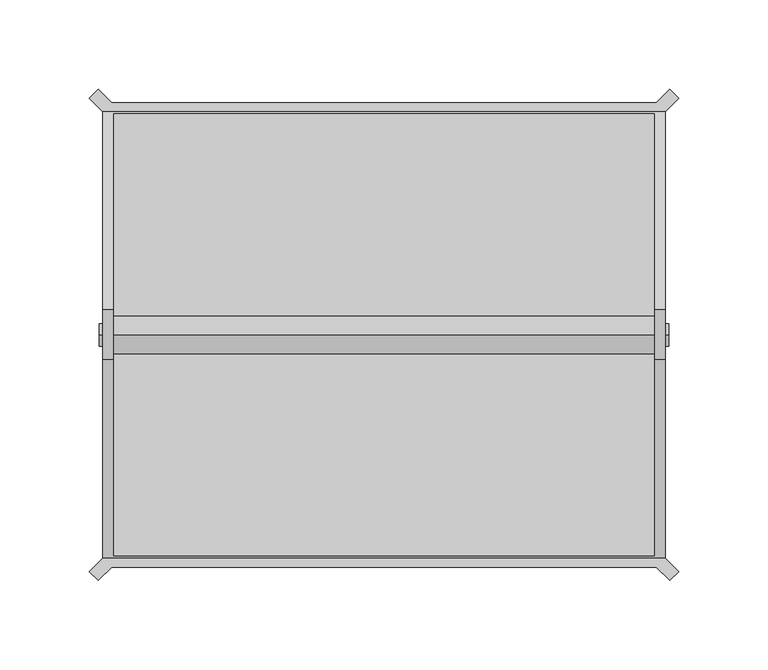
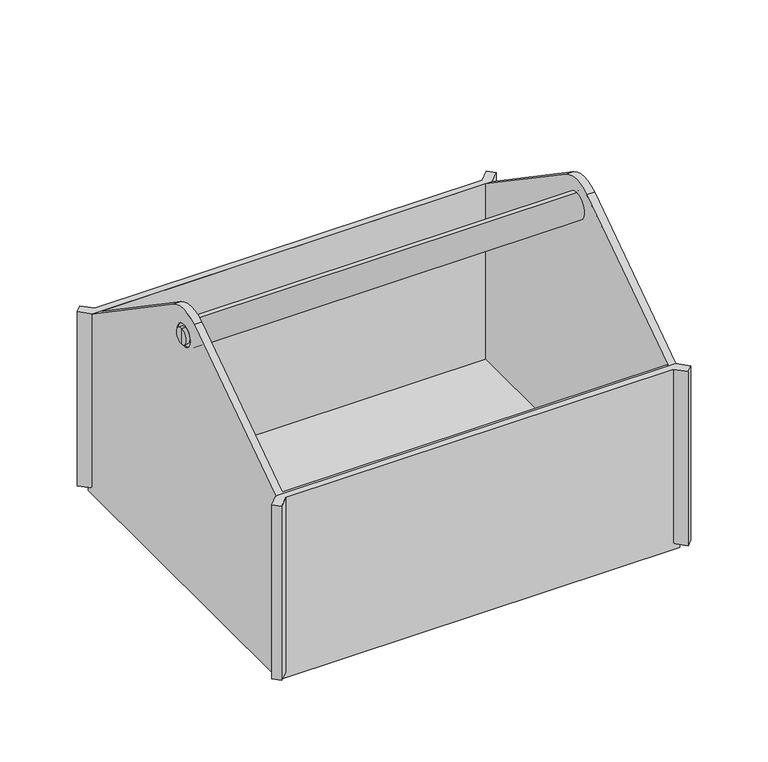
"""IFC4 building model written with IfcOpenShell, lengths in millimetres: furniture geometry, Toolbox : Toolbox."""

from ifc_helpers import new_model, si_unit, frame, origin, place, context, project, spatial, polyline, circle_curve, source, transform, mapped, element, save
from ifc_brep_helpers import plane_surface, cylinder_surface, revolved_surface, advanced_brep


def furniture_e679e7c0(model_context):
    return source(origin(), model_context, "Body", "AdvancedBrep", [
        advanced_brep(
        [(-159.4956996, 57.5, 208.125), (-159.4956996, 57.5, 214.4386123), (-159.4956996, 57.5, 201.8113877), (159.4956996, 57.5, 201.8113877), (159.4956996, 57.5, 214.4386123), (159.4956996, 57.5, 208.125), (152.5, 57.5, 201.8113877), (152.5, 57.5, 214.4386123), (152.5, 57.5, 197.6842704), (152.5, 57.5, 218.5657296), (-152.5, 57.5, 197.6842704), (-152.5, 57.5, 218.5657296), (-152.5, 57.5, 201.8113877), (-152.5, 57.5, 214.4386123)],
        [
            (0, 1),
            (1, 2, circle_curve(frame((-159.4956996, 57.5, 208.125), z_axis=(-1.0, 0.0, 0.0), x_axis=(0.0, 0.0, 1.0)), 6.3136123)),
            (2, 0),
            (2, 1, circle_curve(frame((-159.4956996, 57.5, 208.125), z_axis=(-1.0, 0.0, 0.0), x_axis=(0.0, 0.0, 1.0)), 6.3136123)),
            (3, 4, circle_curve(frame((159.4956996, 57.5, 208.125), z_axis=(1.0, 0.0, 0.0), x_axis=(0.0, 0.0, 1.0)), 6.3136123)),
            (4, 5),
            (5, 3),
            (4, 3, circle_curve(frame((159.4956996, 57.5, 208.125), z_axis=(1.0, 0.0, 0.0), x_axis=(0.0, 0.0, 1.0)), 6.3136123)),
            (6, 7, circle_curve(frame((152.5, 57.5, 208.125), z_axis=(1.0, 0.0, 0.0), x_axis=(0.0, 0.0, 1.0)), 6.3136123)),
            (7, 4),
            (3, 6),
            (7, 6, circle_curve(frame((152.5, 57.5, 208.125), z_axis=(1.0, 0.0, 0.0), x_axis=(0.0, 0.0, 1.0)), 6.3136123)),
            (8, 9, circle_curve(frame((152.5, 57.5, 208.125), z_axis=(1.0, 0.0, 0.0), x_axis=(0.0, 0.0, 1.0)), 10.4407296)),
            (9, 7),
            (6, 8),
            (9, 8, circle_curve(frame((152.5, 57.5, 208.125), z_axis=(1.0, 0.0, 0.0), x_axis=(0.0, 0.0, 1.0)), 10.4407296)),
            (10, 11, circle_curve(frame((-152.5, 57.5, 208.125), z_axis=(1.0, 0.0, 0.0), x_axis=(0.0, 0.0, 1.0)), 10.4407296)),
            (11, 9),
            (8, 10),
            (11, 10, circle_curve(frame((-152.5, 57.5, 208.125), z_axis=(1.0, 0.0, 0.0), x_axis=(0.0, 0.0, 1.0)), 10.4407296)),
            (12, 13, circle_curve(frame((-152.5, 57.5, 208.125), z_axis=(1.0, 0.0, 0.0), x_axis=(0.0, 0.0, 1.0)), 6.3136123)),
            (13, 11),
            (10, 12),
            (13, 12, circle_curve(frame((-152.5, 57.5, 208.125), z_axis=(1.0, 0.0, 0.0), x_axis=(0.0, 0.0, 1.0)), 6.3136123)),
            (1, 13),
            (12, 2),
        ],
        [
            plane_surface(frame((-159.4956996, 57.5, 208.125), z_axis=(-1.0, 0.0, 0.0), x_axis=(0.0, 0.0, 1.0))),
            plane_surface(frame((159.4956996, 57.5, 208.125), z_axis=(1.0, 0.0, 0.0), x_axis=(0.0, 0.0, 1.0))),
            cylinder_surface(frame((-152.5, 57.5, 208.125), z_axis=(-1.0, 0.0, 0.0), x_axis=(0.0, 0.0, 1.0)), 6.3136123),
            plane_surface(frame((152.5, 57.5, 208.125), z_axis=(1.0, 0.0, 0.0), x_axis=(0.0, 0.0, 1.0))),
            cylinder_surface(frame((-152.5, 57.5, 208.125), z_axis=(-1.0, 0.0, 0.0), x_axis=(0.0, 0.0, 1.0)), 10.4407296),
            plane_surface(frame((-152.5, 57.5, 208.125), z_axis=(-1.0, 0.0, 0.0), x_axis=(0.0, 0.0, 1.0))),
        ],
        [
            (0, [[1, 2, 3]]),
            (0, [[-3, 4, -1]]),
            (1, [[5, 6, 7]]),
            (1, [[8, -7, -6]]),
            (2, [[9, 10, -5, 11]]),
            (2, [[12, -11, -8, -10]]),
            (3, [[13, 14, -9, 15]]),
            (3, [[16, -15, -12, -14]]),
            (4, [[17, 18, -13, 19]]),
            (4, [[20, -19, -16, -18]]),
            (5, [[21, 22, -17, 23]]),
            (5, [[24, -23, -20, -22]]),
            (2, [[-2, 25, -21, 26]]),
            (2, [[-4, -26, -24, -25]]),
        ],
    ),
        advanced_brep(
        [(-157.5, 182.5, 5.0), (-165.0, 190.0, 5.0), (-160.0, 195.0, 5.0), (-152.5, 187.5, 5.0), (-157.5, 187.5, 5.0), (152.5, 187.5, 5.0), (160.0, 195.0, 5.0), (165.0, 190.0, 5.0), (157.5, 182.5, 5.0), (157.5, 187.5, 5.0), (157.5, -67.5, 5.0), (165.0, -75.0, 5.0), (160.0, -80.0, 5.0), (152.5, -72.5, 5.0), (157.5, -72.5, 5.0), (-152.5, -72.5, 5.0), (-160.0, -80.0, 5.0), (-165.0, -75.0, 5.0), (-157.5, -67.5, 5.0), (-157.5, -72.5, 5.0), (151.5, 181.5, 150.68), (151.5, 181.5, 5.0), (151.5, -66.5, 5.0), (151.5, -66.5, 150.68), (151.5, 43.4422495, 225.4407296), (151.5, 71.5577505, 225.4407296), (-151.5, -66.5, 5.0), (-151.5, -66.5, 150.68), (-151.5, 181.5, 5.0), (-151.5, 181.5, 150.68), (-151.5, 71.5577505, 225.4407296), (-151.5, 43.4422495, 225.4407296), (-157.5, 182.5, 150.0), (-157.5, 187.5, 0.0), (-157.5, -72.5, 0.0), (-157.5, -67.5, 150.0), (-157.5, 43.4422495, 225.4407296), (-157.5, 71.5577505, 225.4407296), (-157.5, 57.5, 199.3113877), (-157.5, 57.5, 216.9386123), (-165.0, -75.0, 150.0), (-160.0, -80.0, 150.0), (-152.5, -72.5, 150.0), (157.5, -72.5, 0.0), (152.5, -72.5, 150.0), (160.0, -80.0, 150.0), (165.0, -75.0, 150.0), (157.5, -67.5, 150.0), (157.5, 187.5, 0.0), (157.5, 182.5, 150.0), (157.5, 71.5577505, 225.4407296), (157.5, 43.4422495, 225.4407296), (157.5, 57.5, 217.0948623), (157.5, 57.5, 199.1551377), (165.0, 190.0, 150.0), (160.0, 195.0, 150.0), (152.5, 187.5, 150.0), (-152.5, 187.5, 150.0), (-160.0, 195.0, 150.0), (-165.0, 190.0, 150.0), (156.5625, 57.5, 217.0948623), (156.5625, 57.5, 199.1551377), (156.5625, 57.5, 208.125), (-156.5625, 57.5, 199.3113877), (-156.5625, 57.5, 208.125), (-156.5625, 57.5, 216.9386123)],
        [
            (0, 1),
            (1, 2),
            (2, 3),
            (3, 4),
            (4, 0),
            (5, 6),
            (6, 7),
            (7, 8),
            (8, 9),
            (9, 5),
            (10, 11),
            (11, 12),
            (12, 13),
            (13, 14),
            (14, 10),
            (15, 16),
            (16, 17),
            (17, 18),
            (18, 19),
            (19, 15),
            (20, 21),
            (21, 22),
            (22, 23),
            (23, 24),
            (24, 25, circle_curve(frame((151.5, 57.5, 204.7675671), z_axis=(-1.0, 0.0, 0.0), x_axis=(0.0, 1.0, 0.0)), 25.0)),
            (25, 20),
            (22, 26),
            (26, 27),
            (27, 23),
            (26, 28),
            (28, 29),
            (29, 30),
            (30, 31, circle_curve(frame((-151.5, 57.5, 204.7675671), z_axis=(1.0, 0.0, 0.0), x_axis=(0.0, 1.0, 0.0)), 25.0)),
            (31, 27),
            (20, 29),
            (28, 21),
            (32, 0),
            (4, 33),
            (33, 34),
            (34, 19),
            (18, 35),
            (35, 36),
            (36, 37, circle_curve(frame((-157.5, 57.5, 204.7675671), z_axis=(-1.0, 0.0, 0.0), x_axis=(0.0, 1.0, 0.0)), 25.0)),
            (37, 32),
            (38, 39, circle_curve(frame((-157.5, 57.5, 208.125), z_axis=(1.0, 0.0, 0.0), x_axis=(0.0, 0.0, 1.0)), 8.8136123)),
            (39, 38, circle_curve(frame((-157.5, 57.5, 208.125), z_axis=(1.0, 0.0, 0.0), x_axis=(0.0, 0.0, 1.0)), 8.8136123)),
            (17, 40),
            (40, 35),
            (16, 41),
            (41, 40),
            (15, 42),
            (42, 41),
            (34, 43),
            (43, 14),
            (13, 44),
            (44, 42),
            (12, 45),
            (45, 44),
            (11, 46),
            (46, 45),
            (10, 47),
            (47, 46),
            (43, 48),
            (48, 9),
            (8, 49),
            (49, 50),
            (50, 51, circle_curve(frame((157.5, 57.5, 204.7675671), z_axis=(1.0, 0.0, 0.0), x_axis=(0.0, 1.0, 0.0)), 25.0)),
            (51, 47),
            (52, 53, circle_curve(frame((157.5, 57.5, 208.125), z_axis=(-1.0, 0.0, 0.0), x_axis=(0.0, 0.0, 1.0)), 8.9698623)),
            (53, 52, circle_curve(frame((157.5, 57.5, 208.125), z_axis=(-1.0, 0.0, 0.0), x_axis=(0.0, 0.0, 1.0)), 8.9698623)),
            (7, 54),
            (54, 49),
            (6, 55),
            (55, 54),
            (5, 56),
            (56, 55),
            (48, 33),
            (3, 57),
            (57, 56),
            (2, 58),
            (58, 57),
            (1, 59),
            (59, 58),
            (32, 59),
            (47, 35),
            (51, 24),
            (31, 36),
            (50, 25),
            (30, 37),
            (49, 32),
            (60, 61, circle_curve(frame((156.5625, 57.5, 208.125), z_axis=(-1.0, 0.0, 0.0), x_axis=(0.0, 0.0, 1.0)), 8.9698623)),
            (61, 53),
            (52, 60),
            (61, 60, circle_curve(frame((156.5625, 57.5, 208.125), z_axis=(-1.0, 0.0, 0.0), x_axis=(0.0, 0.0, 1.0)), 8.9698623)),
            (60, 62),
            (62, 61),
            (63, 64),
            (64, 65),
            (65, 63, circle_curve(frame((-156.5625, 57.5, 208.125), z_axis=(-1.0, 0.0, 0.0), x_axis=(0.0, 0.0, 1.0)), 8.8136123)),
            (63, 65, circle_curve(frame((-156.5625, 57.5, 208.125), z_axis=(-1.0, 0.0, 0.0), x_axis=(0.0, 0.0, 1.0)), 8.8136123)),
            (65, 39),
            (38, 63),
        ],
        [
            plane_surface(frame((151.5, 182.5, 5.0), z_axis=(0.0, 0.0, -1.0), x_axis=(0.0, 1.0, 0.0))),
            plane_surface(frame((151.5, 181.5, 230.0), z_axis=(-1.0, 0.0, 0.0), x_axis=(0.0, 0.0, -1.0))),
            plane_surface(frame((151.5, -66.5, 230.0), z_axis=(0.0, 1.0, 0.0), x_axis=(0.0, 0.0, -1.0))),
            plane_surface(frame((-151.5, -66.5, 230.0), z_axis=(1.0, 0.0, 0.0), x_axis=(0.0, 0.0, -1.0))),
            plane_surface(frame((-151.5, 181.5, 230.0), z_axis=(0.0, -1.0, 0.0), x_axis=(0.0, 0.0, -1.0))),
            plane_surface(frame((-157.5, 182.5, 230.0), z_axis=(-1.0, 0.0, 0.0), x_axis=(0.0, 0.0, -1.0))),
            plane_surface(frame((-157.5, -67.5, 230.0), z_axis=(-0.7071067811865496, 0.7071067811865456, 0.0), x_axis=(0.0, 0.0, -1.0))),
            plane_surface(frame((-165.0, -75.0, 230.0), z_axis=(-0.707106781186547, -0.7071067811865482, 0.0), x_axis=(0.0, 0.0, -1.0))),
            plane_surface(frame((-160.0, -80.0, 230.0), z_axis=(0.7071067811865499, -0.7071067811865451, 0.0), x_axis=(0.0, 0.0, -1.0))),
            plane_surface(frame((-152.5, -72.5, 230.0), z_axis=(0.0, -1.0, 0.0), x_axis=(0.0, 0.0, -1.0))),
            plane_surface(frame((152.5, -72.5, 230.0), z_axis=(-0.7071067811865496, -0.7071067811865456, 0.0), x_axis=(0.0, 0.0, -1.0))),
            plane_surface(frame((160.0, -80.0, 230.0), z_axis=(0.707106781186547, -0.7071067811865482, 0.0), x_axis=(0.0, 0.0, -1.0))),
            plane_surface(frame((165.0, -75.0, 230.0), z_axis=(0.7071067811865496, 0.7071067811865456, 0.0), x_axis=(0.0, 0.0, -1.0))),
            plane_surface(frame((157.5, -67.5, 230.0), z_axis=(1.0, 0.0, 0.0), x_axis=(0.0, 0.0, -1.0))),
            plane_surface(frame((157.5, 182.5, 230.0), z_axis=(0.7071067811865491, -0.707106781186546, 0.0), x_axis=(0.0, 0.0, -1.0))),
            plane_surface(frame((165.0, 190.0, 230.0), z_axis=(0.7071067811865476, 0.7071067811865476, 0.0), x_axis=(0.0, 0.0, -1.0))),
            plane_surface(frame((160.0, 195.0, 230.0), z_axis=(-0.7071067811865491, 0.7071067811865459, 0.0), x_axis=(0.0, 0.0, -1.0))),
            plane_surface(frame((152.5, 187.5, 230.0), z_axis=(0.0, 1.0, 0.0), x_axis=(0.0, 0.0, -1.0))),
            plane_surface(frame((-152.5, 187.5, 230.0), z_axis=(0.7071067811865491, 0.7071067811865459, 0.0), x_axis=(0.0, 0.0, -1.0))),
            plane_surface(frame((-160.0, 195.0, 230.0), z_axis=(-0.7071067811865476, 0.7071067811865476, 0.0), x_axis=(0.0, 0.0, -1.0))),
            plane_surface(frame((-165.0, 190.0, 230.0), z_axis=(-0.7071067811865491, -0.707106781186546, 0.0), x_axis=(0.0, 0.0, -1.0))),
            plane_surface(frame((165.0, -80.0, 150.0), z_axis=(0.0, 0.0, 1.0), x_axis=(-1.0, 0.0, 0.0))),
            plane_surface(frame((165.0, -67.5, 150.0), z_axis=(0.0, -0.5623100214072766, 0.8269265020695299), x_axis=(-1.0, 0.0, 0.0))),
            cylinder_surface(frame((-165.0, 57.5, 204.7675671), z_axis=(-1.0, 0.0, 0.0), x_axis=(0.0, 1.0, 0.0)), 25.0),
            plane_surface(frame((165.0, 71.5577505, 225.4407296), z_axis=(0.0, 0.5623100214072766, 0.8269265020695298), x_axis=(-1.0, 0.0, 0.0))),
            plane_surface(frame((165.0, 182.5, 150.0), z_axis=(0.0, 0.0, 1.0), x_axis=(-1.0, 0.0, 0.0))),
            revolved_surface(polyline([(156.5625, 57.5, 217.0948623), (157.5, 57.5, 217.0948623)]), (-152.5, 57.5, 208.125), (-1.0, 0.0, 0.0)),
            plane_surface(frame((156.5625, 57.5, 208.125), z_axis=(1.0, 0.0, 0.0), x_axis=(0.0, 0.0, 1.0))),
            plane_surface(frame((-156.5625, 57.5, 208.125), z_axis=(-1.0, 0.0, 0.0), x_axis=(0.0, 0.0, 1.0))),
            revolved_surface(polyline([(-157.5, 57.5, 216.9386123), (-156.5625, 57.5, 216.9386123)]), (-152.5, 57.5, 208.125), (-1.0, 0.0, 0.0)),
            plane_surface(frame((-152.5, 187.5, 5.0), z_axis=(0.0, 0.0, 1.0), x_axis=(-1.0, 0.0, 0.0))),
            plane_surface(frame((-152.5, 187.5, 0.0), z_axis=(0.0, 0.0, -1.0), x_axis=(1.0, 0.0, 0.0))),
        ],
        [
            (0, [[1, 2, 3, 4, 5]]),
            (0, [[6, 7, 8, 9, 10]]),
            (0, [[11, 12, 13, 14, 15]]),
            (0, [[16, 17, 18, 19, 20]]),
            (1, [[21, 22, 23, 24, 25, 26]]),
            (2, [[-23, 27, 28, 29]]),
            (3, [[-28, 30, 31, 32, 33, 34]]),
            (4, [[-21, 35, -31, 36]]),
            (5, [[37, -5, 38, 39, 40, -19, 41, 42, 43, 44], [45, 46]]),
            (6, [[-18, 47, 48, -41]]),
            (7, [[-17, 49, 50, -47]]),
            (8, [[-16, 51, 52, -49]]),
            (9, [[-51, -20, -40, 53, 54, -14, 55, 56]]),
            (10, [[-13, 57, 58, -55]]),
            (11, [[-12, 59, 60, -57]]),
            (12, [[-11, 61, 62, -59]]),
            (13, [[-61, -15, -54, 63, 64, -9, 65, 66, 67, 68], [69, 70]]),
            (14, [[-8, 71, 72, -65]]),
            (15, [[-7, 73, 74, -71]]),
            (16, [[-6, 75, 76, -73]]),
            (17, [[-75, -10, -64, 77, -38, -4, 78, 79]]),
            (18, [[-3, 80, 81, -78]]),
            (19, [[-2, 82, 83, -80]]),
            (20, [[-1, -37, 84, -82]]),
            (21, [[85, -48, -50, -52, -56, -58, -60, -62]]),
            (22, [[-85, -68, 86, -24, -29, -34, 87, -42]]),
            (23, [[-86, -67, 88, -25]]),
            (23, [[-87, -33, 89, -43]]),
            (24, [[90, -44, -89, -32, -35, -26, -88, -66]]),
            (25, [[-90, -72, -74, -76, -79, -81, -83, -84]]),
            (26, [[91, 92, -69, 93]]),
            (26, [[94, -93, -70, -92]]),
            (27, [[-91, 95, 96]]),
            (27, [[-94, -96, -95]]),
            (28, [[97, 98, 99]]),
            (28, [[-97, 100, -98]]),
            (29, [[-99, 101, -45, 102]]),
            (29, [[-100, -102, -46, -101]]),
            (30, [[-22, -36, -30, -27]]),
            (31, [[-63, -53, -39, -77]]),
        ],
    ),
    ])


if __name__ == "__main__":
    model = new_model("IFC4")
    model_context = context("Model", 3, world=origin())
    ifc_project = project(units=[si_unit("LENGTHUNIT", "METRE", prefix="MILLI")], contexts=[model_context])
    site = spatial("IfcSite", under=ifc_project)
    building = spatial("IfcBuilding", under=site)
    placement = place(None, origin())
    furniture_shape = furniture_e679e7c0(model_context)
    element("IfcFurniture", 1, ObjectType="Toolbox : Toolbox", at=placement, inside=building, context=model_context, shape_type="MappedRepresentation", body=[
        mapped(furniture_shape, transform((0.0, 0.0, 0.0), x_axis=(1.0, 0.0, 0.0), y_axis=(0.0, 1.0, 0.0), z_axis=(0.0, 0.0, 1.0))),
    ])
    save(model, "model.ifc")
